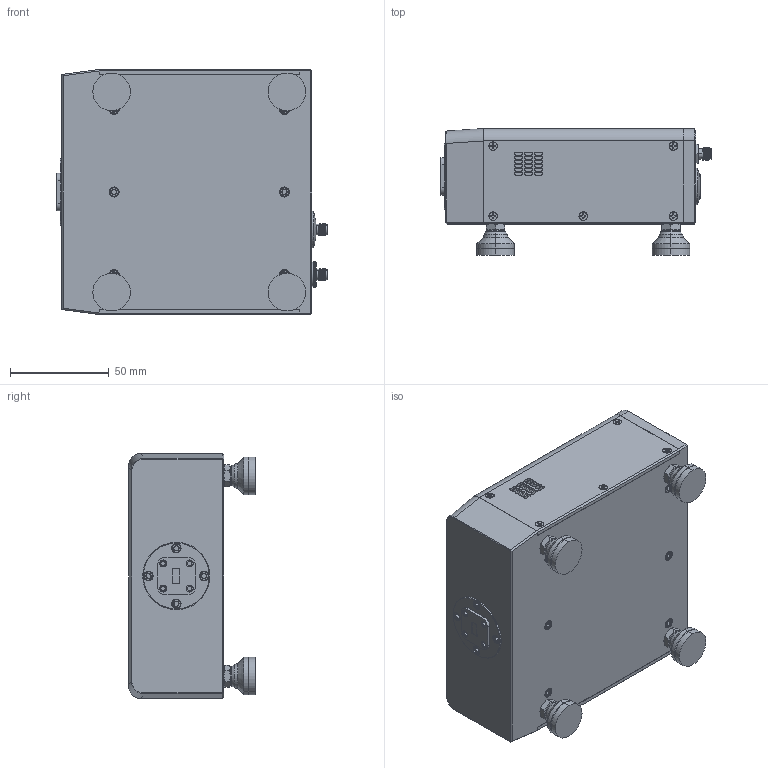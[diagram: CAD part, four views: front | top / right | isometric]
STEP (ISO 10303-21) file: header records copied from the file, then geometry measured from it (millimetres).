
FILE_DESCRIPTION (( 'STEP AP214' ), '1' );
FILE_NAME ('TC-A-2, Defeatured.STEP', '2024-05-15T23:00:18', ( '' ), ( '' ), 'SwSTEP 2.0', 'SolidWorks 2021', '' );
FILE_SCHEMA (( 'AUTOMOTIVE_DESIGN' ));
Length unit declared in the file: inch
Products named in the file (1): TC-A-2, Defeatured
Bounding box: 136.91 x 64.14 x 124.32 mm (x, y, z)
Volume: 764209.7 mm3; surface area: 106787.8 mm2
Topology: 1 solids, 3 shells, 1511 faces, 3984 edges, 2560 vertices
Faces by surface type: plane 745, cylinder 429, cone 314, bspline 12, sphere 9, torus 2
Entity records: 72182 total; most frequent: CARTESIAN_POINT 16536, ORIENTED_EDGE 7956, DIRECTION 7416, EDGE_CURVE 3978, AXIS2_PLACEMENT_3D 2672, VERTEX_POINT 2559, LINE 2072, VECTOR 2072
